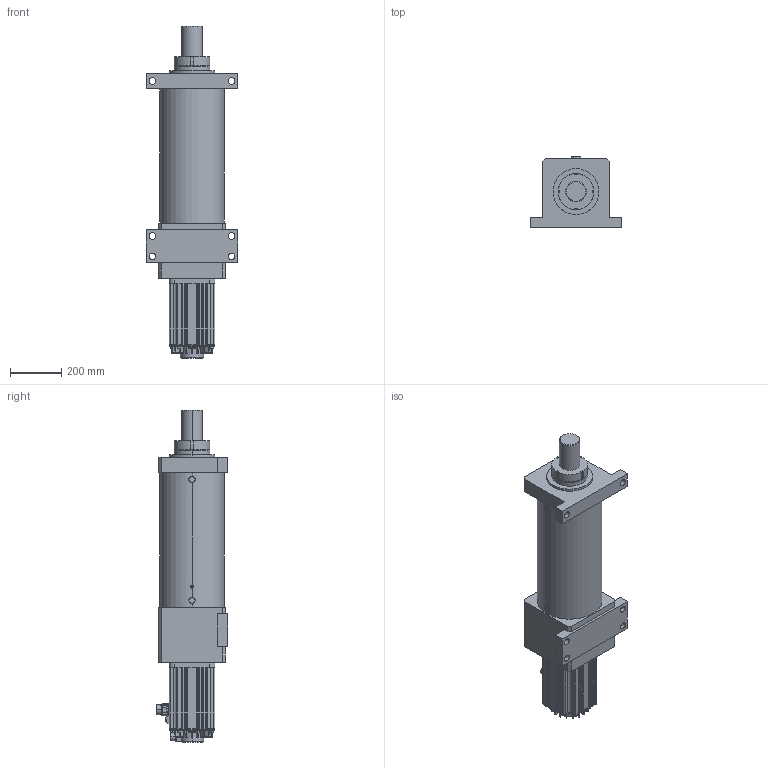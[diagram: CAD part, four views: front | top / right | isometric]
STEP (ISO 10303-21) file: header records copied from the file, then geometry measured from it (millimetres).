
FILE_DESCRIPTION (( 'STEP AP203' ), '1' );
FILE_NAME ('S9眻盄耜醱假蚾.STEP', '2024-08-14T08:35:00', ( '' ), ( '' ), 'SwSTEP 2.0', 'SolidWorks 2018', '' );
FILE_SCHEMA (( 'CONFIG_CONTROL_DESIGN' ));
Length unit declared in the file: millimetre
Products named in the file (3): S9眻盄耜醱假蚾; S9眻盄耜醱; ECMA-LX1855S3-180框號系列機種-5.5KW-400V高慣量系列
Assembly tree (2 placements, depth 2):
  S9眻盄耜醱假蚾
    ECMA-LX1855S3-180框號系列機種-5.5KW-400V高慣量系列
    S9眻盄耜醱
Bounding box: 360 x 280.02 x 1299.4 mm (x, y, z)
Volume: 55537331.8 mm3; surface area: 1458281.6 mm2
Topology: 2 solids, 4 shells, 750 faces, 1764 edges, 1087 vertices
Faces by surface type: plane 381, cylinder 268, cone 50, bspline 31, torus 20
Entity records: 24159 total; most frequent: CARTESIAN_POINT 6890, ORIENTED_EDGE 3524, DIRECTION 3464, EDGE_CURVE 1762, AXIS2_PLACEMENT_3D 1233, VERTEX_POINT 1087, LINE 998, VECTOR 998
